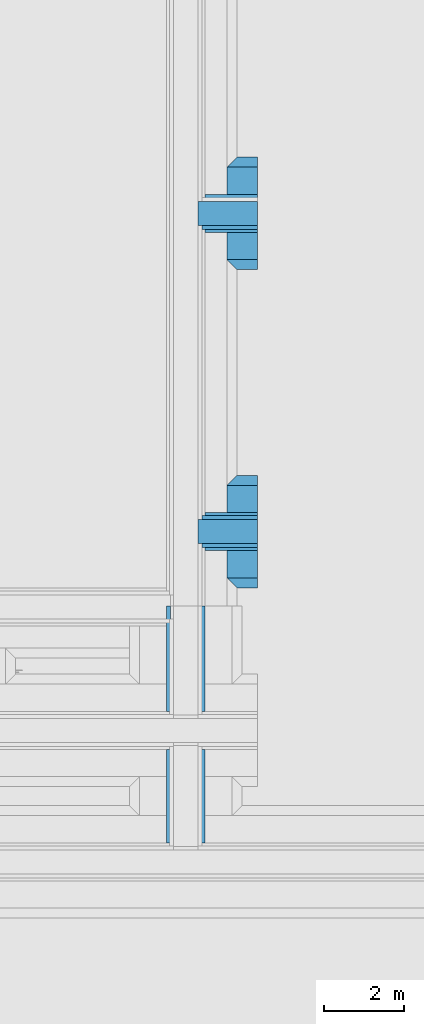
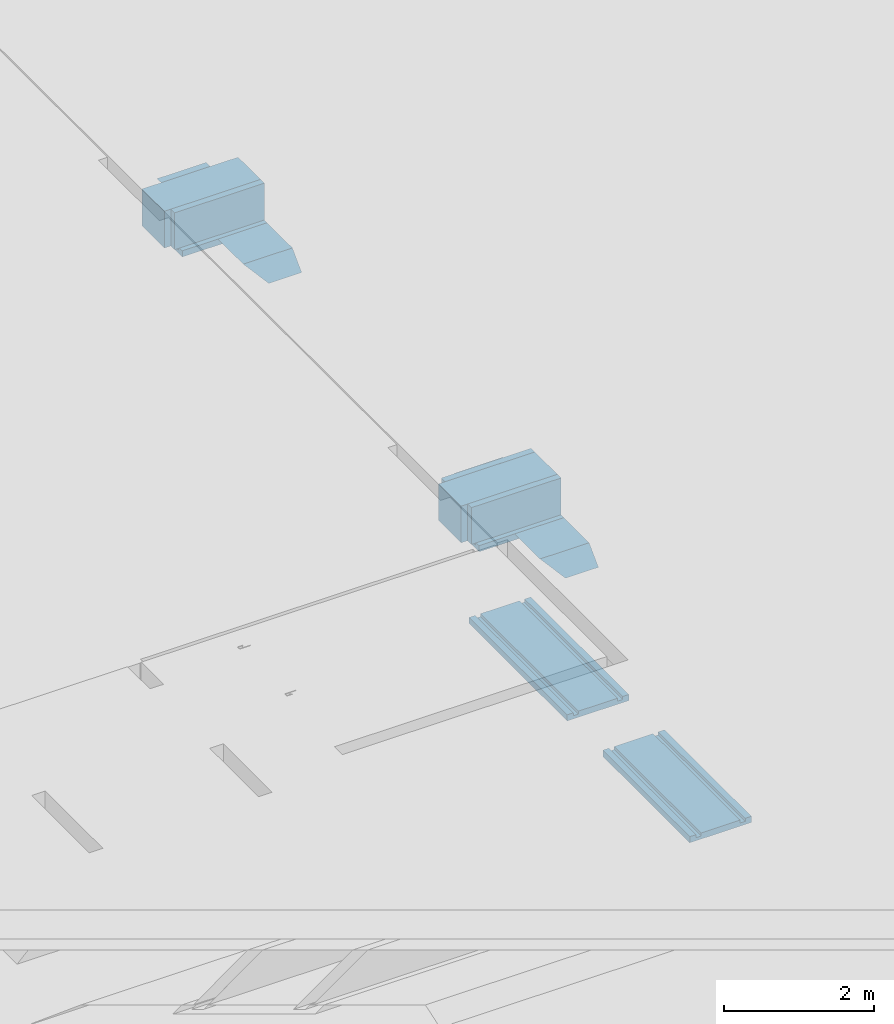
# One storey, part 6 of 15: 10 building element parts, 3 elements without a shape of their own.
"""IFC2X3 building model written with IfcOpenShell, lengths in millimetres."""

from ifc_helpers import new_model, entity, si_unit, converted_unit, derived_unit, money_unit, direction, frame, origin_with_axes, place, context, subcontext, project, spatial, faceted_brep, material, type_object, element, aggregate, save


model = new_model("IFC2X3")

# Units and contexts
model_context = context("Model", 3, precision=0.01, world=origin_with_axes(), true_north=direction((0.0, 1.0)))
plan_context = context("Plan", 3, precision=0.01, world=origin_with_axes(), true_north=direction((0.0, 1.0)))
body_context = subcontext(model_context, "Body", "Model", "MODEL_VIEW")
ifc_project = project(units=[si_unit("LENGTHUNIT", "METRE", prefix="MILLI"), si_unit("AREAUNIT", "SQUARE_METRE"), si_unit("VOLUMEUNIT", "CUBIC_METRE"), converted_unit("PLANEANGLEUNIT", "DEGREE", entity("IfcPlaneAngleMeasure", 0.0174532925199), si_unit("PLANEANGLEUNIT", "RADIAN"), dimensions=[0, 0, 0, 0, 0, 0, 0]), money_unit("EUR"), converted_unit("TIMEUNIT", "Year", entity("IfcTimeMeasure", 31556926.0), si_unit("TIMEUNIT", "SECOND"), dimensions=[0, 0, 1, 0, 0, 0, 0]), si_unit("MASSUNIT", "GRAM", prefix="KILO"), si_unit("THERMODYNAMICTEMPERATUREUNIT", "DEGREE_CELSIUS"), si_unit("LUMINOUSINTENSITYUNIT", "LUMEN"), si_unit("ENERGYUNIT", "JOULE", prefix="MEGA"), derived_unit("THERMALCONDUCTANCEUNIT", [(si_unit("POWERUNIT", "WATT"), 1), (si_unit("LENGTHUNIT", "METRE"), -1), (si_unit("THERMODYNAMICTEMPERATUREUNIT", "KELVIN"), -1)]), derived_unit("SPECIFICHEATCAPACITYUNIT", [(si_unit("ENERGYUNIT", "JOULE"), 1), (si_unit("MASSUNIT", "GRAM", prefix="KILO"), -1), (si_unit("THERMODYNAMICTEMPERATUREUNIT", "KELVIN"), -1)]), derived_unit("MASSDENSITYUNIT", [(si_unit("MASSUNIT", "GRAM", prefix="KILO"), 1), (si_unit("VOLUMEUNIT", "CUBIC_METRE"), -1)])], contexts=[model_context, plan_context])

# Site, building, storey
site_placement = place(None, origin_with_axes())
site = spatial("IfcSite", under=ifc_project, at=site_placement, Name="Site", CompositionType="ELEMENT")
building_placement = place(site_placement, origin_with_axes())
building = spatial("IfcBuilding", under=site, at=building_placement, Name="Naam gebouw", CompositionType="ELEMENT")
storey_placement = place(building_placement, frame((0.0, 0.0, -1050.0), z_axis=(0.0, 0.0, 1.0), x_axis=(1.0, 0.0, 0.0)))
storey = spatial("IfcBuildingStorey", under=building, at=storey_placement, Name="fundering", CompositionType="ELEMENT", Elevation=-1050.0)

# Beam, building element part
beam_type = type_object("IfcBeamType", Name="Fundering balk IsoBouw Powerkist 2800 x 850", PredefinedType="BEAM")
beam_1_placement = place(storey_placement, frame((24125.0, 12425.0006215, -60.0000017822), z_axis=(0.0, 0.0, 1.0), x_axis=(1.0, 0.0, 0.0)))
beam_1 = element("IfcBeam", 1, at=beam_1_placement, inside=storey, type_object=beam_type, Name="28_Balk-x", ObjectType="BEAM")
ifc_material_1 = material(Name="Isolatie - EPS")
building_element_part_1_placement = place(beam_1_placement, origin_with_axes())
building_element_part_1 = element("IfcBuildingElementPart", 2, at=building_element_part_1_placement, material=ifc_material_1, Name="Isolatie - EPS", context=body_context, shape_type="Brep", body=[
    faceted_brep([(420.000242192, 6069.99937852, 1.0581342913e-05), (420.000242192, 3449.99975415, 8.43651903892e-06), (495.000251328, 3449.99975415, 8.43651903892e-06), (495.000251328, 6069.99937852, -3.57478113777e-06), (400.000257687, 6069.99937852, 1.0581342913e-05), (400.000257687, 3449.99975415, 8.43651903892e-06), (-455.000251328, 3449.99975415, -99.9999968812), (495.000251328, 3449.99975415, -99.9999968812), (400.000257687, 3449.99975415, -49.0824424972), (320.000248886, 3449.99975415, -49.0824424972), (320.000248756, 3449.99975415, 8.43651903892e-06), (-280.000248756, 3449.99975415, 8.43651903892e-06), (-280.000248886, 3449.99975415, -49.0824424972), (-360.000257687, 3449.99975415, -49.0824424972), (-360.000257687, 3449.99975415, 8.43651903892e-06), (-380.000242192, 3449.99975415, 8.43651903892e-06), (-455.000251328, 3449.99975415, 8.43651903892e-06), (495.000251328, 6069.99937852, -99.9999968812), (320.000248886, 6069.99937852, -3.57478113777e-06), (320.000248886, 6069.99937852, -49.0824427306), (400.000257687, 6069.99937852, -49.0824427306), (-455.000251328, 6069.99937852, -99.9999968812), (-455.000251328, 6069.99937852, -3.57478113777e-06), (-380.000242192, 6069.99937852, 1.0581342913e-05), (-360.000257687, 6069.99937852, 1.0581342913e-05), (-360.000257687, 6069.99937852, -49.0824427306), (-280.000248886, 6069.99937852, -49.0824427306), (-280.000248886, 6069.99937852, -3.57478113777e-06)], [[[0, 1, 2, 3]], [[4, 5, 1, 0]], [[6, 7, 2, 1, 5, 8, 9, 10, 11, 12, 13, 14, 15, 16]], [[3, 2, 7, 17]], [[18, 19, 20, 4, 0, 3, 17, 21, 22, 23, 24, 25, 26, 27]], [[20, 8, 5, 4]], [[17, 7, 6, 21]], [[19, 9, 8, 20]], [[18, 10, 9, 19]], [[27, 11, 10, 18]], [[26, 12, 11, 27]], [[25, 13, 12, 26]], [[24, 14, 13, 25]], [[23, 15, 14, 24]], [[22, 16, 15, 23]], [[21, 6, 16, 22]]]),
    faceted_brep([(495.000251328, 2499.9990029, -99.9999968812), (495.000251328, 2499.9990029, 8.43651926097e-06), (495.000251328, 175.000127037, 1.01184001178e-05), (495.000251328, 175.000127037, -99.9999968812), (420.000242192, 2499.9990029, 8.43651926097e-06), (-455.000251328, 2499.9990029, -99.9999968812), (-455.000251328, 2499.9990029, 8.43651926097e-06), (-380.000242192, 2499.9990029, 8.43651926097e-06), (-360.000257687, 2499.9990029, 8.43651926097e-06), (-360.000257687, 2499.9990029, -49.0824424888), (-280.000248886, 2499.9990029, -49.0824424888), (-280.000248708, 2499.9990029, 8.43651926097e-06), (320.000248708, 2499.9990029, 8.43651926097e-06), (320.000248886, 2499.9990029, -49.0824424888), (400.000257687, 2499.9990029, -49.0824424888), (400.000257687, 2499.9990029, 8.43651926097e-06), (420.000242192, 175.000127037, 1.0081812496e-05), (-455.000251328, 175.000127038, -99.9999968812), (400.000257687, 175.000127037, 1.0072055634e-05), (400.000257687, 175.000127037, -49.0824424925), (320.000248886, 175.000127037, -49.0824424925), (320.000248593, 175.000127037, 1.00330286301e-05), (-280.000248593, 175.000127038, 9.74032610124e-06), (-280.000248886, 175.000127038, -49.0824424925), (-360.000257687, 175.000127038, -49.0824424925), (-360.000257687, 175.000127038, 9.70129909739e-06), (-380.000242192, 175.000127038, 9.69154245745e-06), (-455.000251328, 175.000127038, 9.65495461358e-06)], [[[0, 1, 2, 3]], [[4, 1, 0, 5, 6, 7, 8, 9, 10, 11, 12, 13, 14, 15]], [[1, 4, 16, 2]], [[17, 3, 2, 16, 18, 19, 20, 21, 22, 23, 24, 25, 26, 27]], [[5, 0, 3, 17]], [[6, 5, 17, 27]], [[7, 6, 27, 26]], [[8, 7, 26, 25]], [[9, 8, 25, 24]], [[10, 9, 24, 23]], [[11, 10, 23, 22]], [[12, 11, 22, 21]], [[13, 12, 21, 20]], [[14, 13, 20, 19]], [[15, 14, 19, 18]], [[4, 15, 18, 16]]]),
])
aggregate(beam_1, [building_element_part_1])

# Beam, building element parts
beam_2_placement = place(storey_placement, frame((24125.0, 20350.0, -60.0000017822), z_axis=(0.0, 0.0, 1.0), x_axis=(0.0, -1.0, 0.0)))
beam_2 = element("IfcBeam", 3, at=beam_2_placement, inside=storey, type_object=beam_type, Name="28_Balk-x", ObjectType="BEAM")
ifc_material_2 = material(Name="ALG - TERREIN")
building_element_part_2_placement = place(beam_2_placement, origin_with_axes())
building_element_part_2 = element("IfcBuildingElementPart", 4, at=building_element_part_2_placement, material=ifc_material_2, Name="ALG - TERREIN", context=body_context, shape_type="Brep", body=[
    faceted_brep([(1400.00037562, 1295.00000274, -249.999996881), (-1400.00037562, 1295.00000274, -249.999996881), (-1400.00037562, 1803.44907352, -249.999996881), (1400.00037562, 1803.44907352, -249.999996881), (-1150.00039795, 1045.00001313, -5.31483457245e-06), (1150.00039795, 1045.00001313, -6.81460221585e-06), (475.000395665, 1045.00001313, -6.37445318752e-06), (475.000395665, 1145.00001516, -100.000009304), (-475.000395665, 1145.00001516, -100.000009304), (-475.000395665, 1045.00001313, -5.75498360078e-06), (-1150.00039795, 1803.44907352, -1.92126834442e-05), (-475.000395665, 1803.44907352, -100.00001028), (475.000395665, 1803.44907352, -100.00001028), (475.000395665, 1803.44907352, 2.25106189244e-05), (1150.00039795, 1803.44907352, -1.92126834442e-05), (-475.000395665, 1803.44907352, 2.25106189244e-05)], [[[0, 1, 2, 3]], [[4, 1, 0, 5, 6, 7, 8, 9]], [[1, 4, 10, 2]], [[11, 12, 13, 14, 3, 2, 10, 15]], [[5, 0, 3, 14]], [[6, 5, 14, 13]], [[7, 6, 13, 12]], [[8, 7, 12, 11]], [[9, 8, 11, 15]], [[4, 9, 15, 10]]]),
])
building_element_part_3_placement = place(beam_2_placement, origin_with_axes())
building_element_part_3 = element("IfcBuildingElementPart", 5, at=building_element_part_3_placement, material=ifc_material_1, Name="Isolatie - EPS", context=body_context, shape_type="Brep", body=[
    faceted_brep([(-475.000375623, 495.00000274, -99.9999968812), (-475.000375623, 495.00000274, 7.15338899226e-07), (-475.000375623, 1803.44907352, 8.43651903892e-06), (-475.000375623, 1803.44907352, -99.9999968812), (-400.000361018, 495.00000274, 7.15338899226e-07), (475.000375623, 495.00000274, -99.9999968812), (475.000375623, 495.00000274, 7.15338899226e-07), (400.000361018, 495.00000274, 7.15338899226e-07), (380.000371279, 495.00000274, 7.15338899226e-07), (380.000371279, 495.00000274, -49.0824435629), (300.000369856, 495.00000274, -49.0824435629), (300.000369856, 495.00000274, 7.15338899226e-07), (-300.000369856, 495.00000274, 7.15338899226e-07), (-300.000369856, 495.00000274, -49.0824435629), (-380.000371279, 495.00000274, -49.0824435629), (-380.000371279, 495.00000274, 7.15338899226e-07), (-400.000361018, 1803.44907352, 8.43651903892e-06), (300.000369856, 1803.44907352, -49.0824435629), (380.000371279, 1803.44907352, -49.0824435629), (380.000371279, 1803.44907352, 8.43651903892e-06), (400.000361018, 1803.44907352, 8.43651903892e-06), (475.000375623, 1803.44907352, 8.43651926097e-06), (475.000375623, 1803.44907352, -99.9999968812), (-380.000371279, 1803.44907352, 8.43651903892e-06), (-380.000371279, 1803.44907352, -49.0824435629), (-300.000369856, 1803.44907352, -49.0824435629), (-300.000369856, 1803.44907352, 8.43651903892e-06), (300.000369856, 1803.44907352, 8.43651903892e-06)], [[[0, 1, 2, 3]], [[4, 1, 0, 5, 6, 7, 8, 9, 10, 11, 12, 13, 14, 15]], [[1, 4, 16, 2]], [[17, 18, 19, 20, 21, 22, 3, 2, 16, 23, 24, 25, 26, 27]], [[5, 0, 3, 22]], [[6, 5, 22, 21]], [[7, 6, 21, 20]], [[8, 7, 20, 19]], [[9, 8, 19, 18]], [[10, 9, 18, 17]], [[11, 10, 17, 27]], [[12, 11, 27, 26]], [[13, 12, 26, 25]], [[14, 13, 25, 24]], [[15, 14, 24, 23]], [[4, 15, 23, 16]]]),
])
building_element_part_4_placement = place(beam_2_placement, origin_with_axes())
building_element_part_4 = element("IfcBuildingElementPart", 6, at=building_element_part_4_placement, material=ifc_material_1, Name="Isolatie - EPS", context=body_context, shape_type="Brep", body=[
    faceted_brep([(-380.000369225, 1803.44907352, -49.0824424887), (-380.000369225, 495.00000274, -49.0824424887), (-380.000369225, 495.00000274, 7.15338899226e-07), (-380.000369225, 1803.44907352, 2.4249691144e-06), (-300.00036966, 1803.44907352, -49.0824424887), (-300.00036966, 495.00000274, -49.0824424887), (-300.00036966, 495.00000274, 7.15338899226e-07), (-300.00036966, 419.999990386, 7.15338899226e-07), (-400.000366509, 419.999990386, 7.15338899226e-07), (-400.000366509, 1803.44907352, 2.4249691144e-06), (-400.000366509, 1803.44907352, 600.000004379), (-300.00036966, 1803.44907352, 600.000004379), (-300.00036966, 419.999990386, 600.000000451), (-400.000366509, 419.999990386, 600.000000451)], [[[0, 1, 2, 3]], [[4, 5, 1, 0]], [[6, 2, 1, 5]], [[6, 7, 8, 9, 3, 2]], [[4, 0, 3, 9, 10, 11]], [[7, 6, 5, 4, 11, 12]], [[7, 12, 13, 8]], [[9, 8, 13, 10]], [[10, 13, 12, 11]]]),
])
building_element_part_5_placement = place(beam_2_placement, origin_with_axes())
building_element_part_5 = element("IfcBuildingElementPart", 7, at=building_element_part_5_placement, material=ifc_material_1, Name="Isolatie - EPS", context=body_context, shape_type="Brep", body=[
    faceted_brep([(300.00036966, 495.00000274, 7.15338899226e-07), (300.00036966, 419.999990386, 7.15338899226e-07), (300.00036966, 419.999990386, 600.000000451), (300.00036966, 1803.44907352, 600.000004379), (300.00036966, 1803.44907352, -49.0824424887), (300.00036966, 495.00000274, -49.0824424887), (400.000366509, 1803.44907352, 2.4249691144e-06), (400.000366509, 419.999990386, 7.15338899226e-07), (380.000369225, 495.00000274, 7.15338899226e-07), (380.000369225, 1803.44907352, 2.4249691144e-06), (400.000366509, 419.999990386, 600.000000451), (400.000366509, 1803.44907352, 600.000004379), (380.000369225, 1803.44907352, -49.0824424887), (380.000369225, 495.00000274, -49.0824424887)], [[[0, 1, 2, 3, 4, 5]], [[6, 7, 1, 0, 8, 9]], [[7, 10, 2, 1]], [[3, 2, 10, 11]], [[12, 4, 3, 11, 6, 9]], [[12, 13, 5, 4]], [[8, 0, 5, 13]], [[11, 10, 7, 6]], [[9, 8, 13, 12]]]),
])
ifc_material_3 = material(Name="Beton gewapend C")
building_element_part_6_placement = place(beam_2_placement, origin_with_axes())
building_element_part_6 = element("IfcBuildingElementPart", 8, at=building_element_part_6_placement, material=ifc_material_3, Name="Beton gewapend C", context=body_context, shape_type="Brep", body=[
    faceted_brep([(-300.000372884, 1803.44907352, 0.0), (-300.000372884, 320.0, 1.78216552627e-06), (-300.000372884, 320.0, 600.000001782), (-300.000372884, 1803.44907352, 600.0), (300.000372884, 1803.44907352, 0.0), (300.000372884, 320.0, 1.78216552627e-06), (300.000372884, 320.0, 600.000001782), (300.000372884, 1803.44907352, 600.0)], [[[0, 1, 2, 3]], [[4, 5, 1, 0]], [[5, 6, 2, 1]], [[3, 2, 6, 7]], [[4, 0, 3, 7]], [[7, 6, 5, 4]]]),
])
aggregate(beam_2, [building_element_part_2, building_element_part_3, building_element_part_4, building_element_part_5, building_element_part_6])

beam_3_placement = place(storey_placement, frame((24125.0, 28275.0, -60.0000017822), z_axis=(0.0, 0.0, 1.0), x_axis=(0.0, -1.0, 0.0)))
beam_3 = element("IfcBeam", 9, at=beam_3_placement, inside=storey, type_object=beam_type, Name="28_Balk-x", ObjectType="BEAM")
building_element_part_7_placement = place(beam_3_placement, origin_with_axes())
building_element_part_7 = element("IfcBuildingElementPart", 10, at=building_element_part_7_placement, material=ifc_material_2, Name="ALG - TERREIN", context=body_context, shape_type="Brep", body=[
    faceted_brep([(1400.00037562, 1295.00000274, -249.999996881), (-1400.00037562, 1295.00000274, -249.999996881), (-1400.00037562, 1803.44907352, -249.999996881), (1400.00037562, 1803.44907352, -249.999996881), (-1150.00039795, 1045.00001313, 3.96089849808e-06), (1150.00039795, 1045.00001313, 3.96089849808e-06), (475.000395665, 1045.00001313, 3.96089849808e-06), (475.000395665, 1145.00001516, -100.000009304), (-475.000395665, 1145.00001516, -100.000009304), (-475.000395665, 1045.00001313, 3.96089849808e-06), (-1150.00039795, 1803.44907352, -1.92126834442e-05), (-475.000395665, 1803.44907352, -100.00001028), (475.000395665, 1803.44907352, -100.00001028), (475.000395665, 1803.44907352, 2.25106189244e-05), (1150.00039795, 1803.44907352, -1.92126834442e-05), (-475.000395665, 1803.44907352, 2.25106189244e-05)], [[[0, 1, 2, 3]], [[4, 1, 0, 5, 6, 7, 8, 9]], [[1, 4, 10, 2]], [[11, 12, 13, 14, 3, 2, 10, 15]], [[5, 0, 3, 14]], [[6, 5, 14, 13]], [[7, 6, 13, 12]], [[8, 7, 12, 11]], [[9, 8, 11, 15]], [[4, 9, 15, 10]]]),
])
building_element_part_8_placement = place(beam_3_placement, origin_with_axes())
building_element_part_8 = element("IfcBuildingElementPart", 11, at=building_element_part_8_placement, material=ifc_material_1, Name="Isolatie - EPS", context=body_context, shape_type="Brep", body=[
    faceted_brep([(-475.000375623, 495.00000274, -99.9999968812), (-475.000375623, 495.00000274, 7.15338899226e-07), (-475.000375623, 1803.44907352, 8.43651903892e-06), (-475.000375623, 1803.44907352, -99.9999968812), (-400.000361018, 495.00000274, 7.15338899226e-07), (475.000375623, 495.00000274, -99.9999968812), (475.000375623, 495.00000274, 7.15338899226e-07), (400.000361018, 495.00000274, 7.15338899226e-07), (380.000371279, 495.00000274, 7.15338899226e-07), (380.000371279, 495.00000274, -49.0824435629), (300.000369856, 495.00000274, -49.0824435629), (300.000369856, 495.00000274, 7.15338899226e-07), (-300.000369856, 495.00000274, 7.15338899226e-07), (-300.000369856, 495.00000274, -49.0824435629), (-380.000371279, 495.00000274, -49.0824435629), (-380.000371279, 495.00000274, 7.15338899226e-07), (-400.000361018, 1803.44907352, 8.43651903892e-06), (300.000369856, 1803.44907352, -49.0824435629), (380.000371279, 1803.44907352, -49.0824435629), (380.000371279, 1803.44907352, 8.43651903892e-06), (400.000361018, 1803.44907352, 8.43651903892e-06), (475.000375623, 1803.44907352, 8.43651926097e-06), (475.000375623, 1803.44907352, -99.9999968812), (-380.000371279, 1803.44907352, 8.43651903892e-06), (-380.000371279, 1803.44907352, -49.0824435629), (-300.000369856, 1803.44907352, -49.0824435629), (-300.000369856, 1803.44907352, 8.43651903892e-06), (300.000369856, 1803.44907352, 8.43651903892e-06)], [[[0, 1, 2, 3]], [[4, 1, 0, 5, 6, 7, 8, 9, 10, 11, 12, 13, 14, 15]], [[1, 4, 16, 2]], [[17, 18, 19, 20, 21, 22, 3, 2, 16, 23, 24, 25, 26, 27]], [[5, 0, 3, 22]], [[6, 5, 22, 21]], [[7, 6, 21, 20]], [[8, 7, 20, 19]], [[9, 8, 19, 18]], [[10, 9, 18, 17]], [[11, 10, 17, 27]], [[12, 11, 27, 26]], [[13, 12, 26, 25]], [[14, 13, 25, 24]], [[15, 14, 24, 23]], [[4, 15, 23, 16]]]),
])
building_element_part_9_placement = place(beam_3_placement, origin_with_axes())
building_element_part_9 = element("IfcBuildingElementPart", 12, at=building_element_part_9_placement, material=ifc_material_1, Name="Isolatie - EPS", context=body_context, shape_type="Brep", body=[
    faceted_brep([(300.00036966, 495.00000274, 7.15338899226e-07), (300.00036966, 419.999990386, 7.15338899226e-07), (300.00036966, 419.999990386, 600.000000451), (300.00036966, 1803.44907352, 600.000004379), (300.00036966, 1803.44907352, -49.0824424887), (300.00036966, 495.00000274, -49.0824424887), (400.000366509, 1803.44907352, 2.4249691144e-06), (400.000366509, 419.999990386, 7.15338899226e-07), (380.000369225, 495.00000274, 7.15338899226e-07), (380.000369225, 1803.44907352, 2.4249691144e-06), (400.000366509, 419.999990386, 600.000000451), (400.000366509, 1803.44907352, 600.000004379), (380.000369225, 1803.44907352, -49.0824424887), (380.000369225, 495.00000274, -49.0824424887)], [[[0, 1, 2, 3, 4, 5]], [[6, 7, 1, 0, 8, 9]], [[7, 10, 2, 1]], [[3, 2, 10, 11]], [[12, 4, 3, 11, 6, 9]], [[12, 13, 5, 4]], [[8, 0, 5, 13]], [[11, 10, 7, 6]], [[9, 8, 13, 12]]]),
])
building_element_part_10_placement = place(beam_3_placement, origin_with_axes())
building_element_part_10 = element("IfcBuildingElementPart", 13, at=building_element_part_10_placement, material=ifc_material_3, Name="Beton gewapend C", context=body_context, shape_type="Brep", body=[
    faceted_brep([(-300.000372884, 1803.44907352, 0.0), (-300.000372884, 320.0, 1.78216552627e-06), (-300.000372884, 320.0, 600.000001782), (-300.000372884, 1803.44907352, 600.0), (300.000372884, 1803.44907352, 0.0), (300.000372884, 320.0, 1.78216552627e-06), (300.000372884, 320.0, 600.000001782), (300.000372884, 1803.44907352, 600.0)], [[[0, 1, 2, 3]], [[4, 5, 1, 0]], [[5, 6, 2, 1]], [[3, 2, 6, 7]], [[4, 0, 3, 7]], [[7, 6, 5, 4]]]),
])
aggregate(beam_3, [building_element_part_7, building_element_part_8, building_element_part_9, building_element_part_10])

save(model, "model.ifc")
